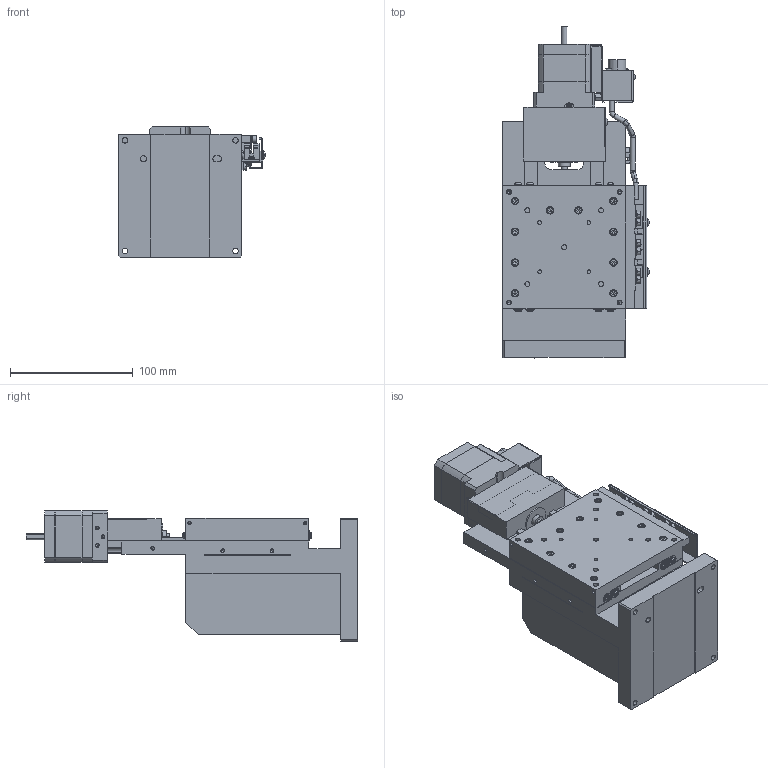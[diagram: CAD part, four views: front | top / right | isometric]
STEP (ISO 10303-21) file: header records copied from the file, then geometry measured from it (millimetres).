
FILE_DESCRIPTION (( 'STEP AP203' ), '1' );
FILE_NAME ('ZA10A-X102-R.STEP', '2019-03-06T08:36:08', ( '' ), ( '' ), 'SwSTEP 2.0', 'SolidWorks 2018', '' );
FILE_SCHEMA (( 'CONFIG_CONTROL_DESIGN' ));
Length unit declared in the file: millimetre
Products named in the file (3): ZA10A-X102-R; base; table
Assembly tree (2 placements, depth 2):
  ZA10A-X102-R
    table
    base
Bounding box: 119.09 x 270 x 106 mm (x, y, z)
Volume: 996145.5 mm3; surface area: 205879.9 mm2
Topology: 2 solids, 2 shells, 2169 faces, 5362 edges, 3277 vertices
Faces by surface type: plane 1300, cylinder 509, cone 292, torus 34, sphere 34
Entity records: 64312 total; most frequent: CARTESIAN_POINT 11563, DIRECTION 11445, ORIENTED_EDGE 10548, EDGE_CURVE 5274, AXIS2_PLACEMENT_3D 4073, LINE 3299, VECTOR 3299, VERTEX_POINT 3277
